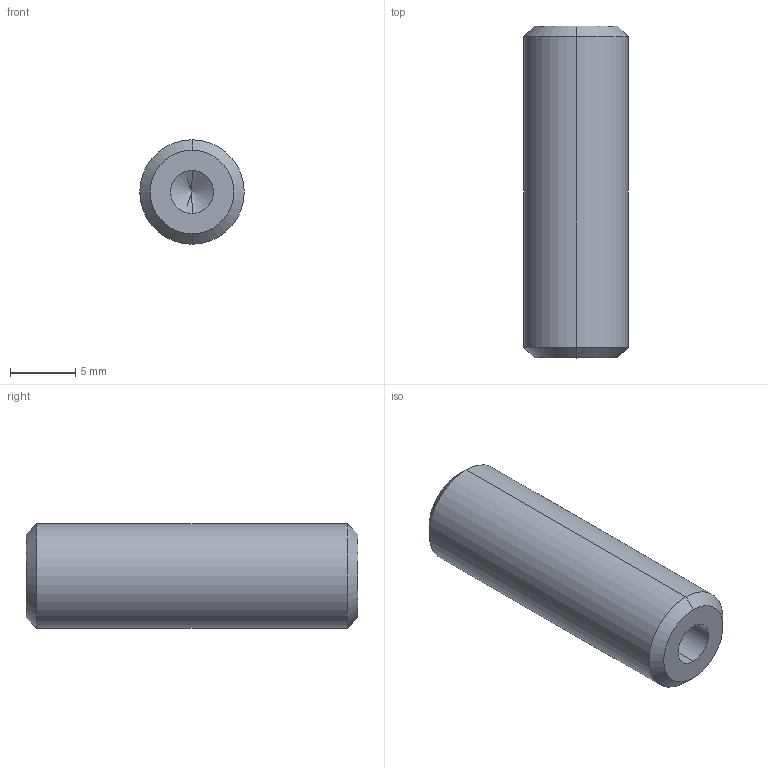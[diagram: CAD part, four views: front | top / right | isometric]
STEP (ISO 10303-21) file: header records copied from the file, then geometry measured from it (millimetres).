
FILE_DESCRIPTION (( 'STEP AP203' ), '1' );
FILE_NAME ('(STEP)MPD-1.STEP', '2020-03-31T02:54:07', ( '' ), ( '' ), 'SwSTEP 2.0', 'SolidWorks 2019', '' );
FILE_SCHEMA (( 'CONFIG_CONTROL_DESIGN' ));
Length unit declared in the file: millimetre
Products named in the file (1): (STEP)MPD-1
Bounding box: 8 x 25.4 x 8 mm (x, y, z)
Volume: 1124.7 mm3; surface area: 895.2 mm2
Topology: 1 solids, 1 shells, 16 faces, 34 edges, 18 vertices
Faces by surface type: cone 8, cylinder 6, plane 2
Entity records: 479 total; most frequent: DIRECTION 80, CARTESIAN_POINT 65, ORIENTED_EDGE 60, AXIS2_PLACEMENT_3D 33, EDGE_CURVE 30, VERTEX_POINT 18, EDGE_LOOP 18, ADVANCED_FACE 16
